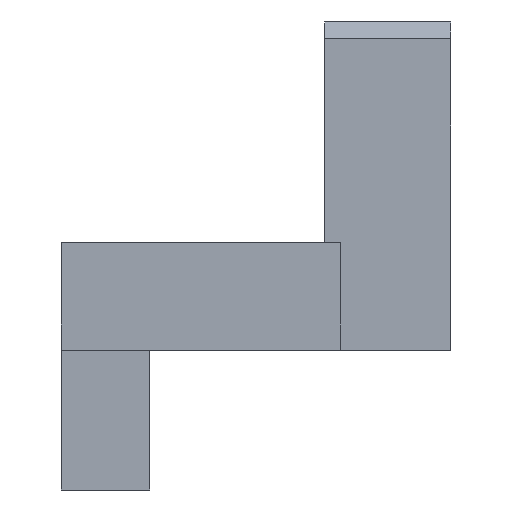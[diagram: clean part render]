
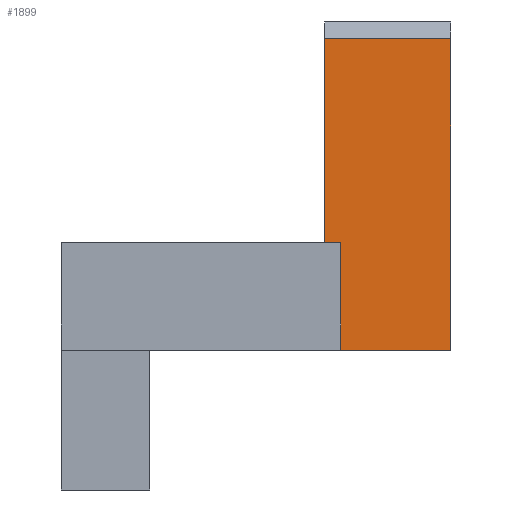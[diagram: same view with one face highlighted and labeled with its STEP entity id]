
A CAD part, front view. The second image highlights one B-rep face of the part: STEP entity #1899.
In plain terms, the highlighted planar face has unit normal (0, -1, 0).
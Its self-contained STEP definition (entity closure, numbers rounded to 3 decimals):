
#44 = PLANE('',#45);
#45 = AXIS2_PLACEMENT_3D('',#46,#47,#48);
#46 = CARTESIAN_POINT('',(31.6,-13.1,-12.7));
#47 = DIRECTION('',(0.,0.,1.));
#48 = DIRECTION('',(1.,0.,-0.));
#100 = PLANE('',#101);
#101 = AXIS2_PLACEMENT_3D('',#102,#103,#104);
#102 = CARTESIAN_POINT('',(31.6,-13.1,-14.7));
#103 = DIRECTION('',(0.,0.,1.));
#104 = DIRECTION('',(1.,0.,-0.));
#273 = VERTEX_POINT('',#274);
#274 = CARTESIAN_POINT('',(36.8,-14.5,-12.7));
#288 = PLANE('',#289);
#289 = AXIS2_PLACEMENT_3D('',#290,#291,#292);
#290 = CARTESIAN_POINT('',(36.8,-16.5,-14.7));
#291 = DIRECTION('',(1.,0.,-0.));
#292 = DIRECTION('',(0.,0.,1.));
#300 = EDGE_CURVE('',#273,#301,#303,.T.);
#301 = VERTEX_POINT('',#302);
#302 = CARTESIAN_POINT('',(36.5,-14.5,-12.7));
#303 = SURFACE_CURVE('',#304,(#308,#315),.PCURVE_S1.);
#304 = LINE('',#305,#306);
#305 = CARTESIAN_POINT('',(34.05,-14.5,-12.7));
#306 = VECTOR('',#307,1.);
#307 = DIRECTION('',(-1.,-0.,0.));
#308 = PCURVE('',#44,#309);
#309 = DEFINITIONAL_REPRESENTATION('',(#310),#314);
#310 = LINE('',#311,#312);
#311 = CARTESIAN_POINT('',(2.45,-1.4));
#312 = VECTOR('',#313,1.);
#313 = DIRECTION('',(-1.,0.));
#314 = ( GEOMETRIC_REPRESENTATION_CONTEXT(2) 
PARAMETRIC_REPRESENTATION_CONTEXT() REPRESENTATION_CONTEXT('2D SPACE',''
  ) );
#315 = PCURVE('',#316,#321);
#316 = PLANE('',#317);
#317 = AXIS2_PLACEMENT_3D('',#318,#319,#320);
#318 = CARTESIAN_POINT('',(36.5,-14.5,-14.7));
#319 = DIRECTION('',(-0.,1.,0.));
#320 = DIRECTION('',(0.,0.,1.));
#321 = DEFINITIONAL_REPRESENTATION('',(#322),#326);
#322 = LINE('',#323,#324);
#323 = CARTESIAN_POINT('',(2.,-2.45));
#324 = VECTOR('',#325,1.);
#325 = DIRECTION('',(0.,-1.));
#326 = ( GEOMETRIC_REPRESENTATION_CONTEXT(2) 
PARAMETRIC_REPRESENTATION_CONTEXT() REPRESENTATION_CONTEXT('2D SPACE',''
  ) );
#344 = PLANE('',#345);
#345 = AXIS2_PLACEMENT_3D('',#346,#347,#348);
#346 = CARTESIAN_POINT('',(36.5,-14.5,-14.7));
#347 = DIRECTION('',(1.,0.,-0.));
#348 = DIRECTION('',(0.,0.,1.));
#764 = VERTEX_POINT('',#765);
#765 = CARTESIAN_POINT('',(36.8,-14.5,-14.7));
#786 = EDGE_CURVE('',#764,#787,#789,.T.);
#787 = VERTEX_POINT('',#788);
#788 = CARTESIAN_POINT('',(38.85,-14.5,-14.7));
#789 = SURFACE_CURVE('',#790,(#794,#801),.PCURVE_S1.);
#790 = LINE('',#791,#792);
#791 = CARTESIAN_POINT('',(36.5,-14.5,-14.7));
#792 = VECTOR('',#793,1.);
#793 = DIRECTION('',(1.,0.,-0.));
#794 = PCURVE('',#100,#795);
#795 = DEFINITIONAL_REPRESENTATION('',(#796),#800);
#796 = LINE('',#797,#798);
#797 = CARTESIAN_POINT('',(4.9,-1.4));
#798 = VECTOR('',#799,1.);
#799 = DIRECTION('',(1.,0.));
#800 = ( GEOMETRIC_REPRESENTATION_CONTEXT(2) 
PARAMETRIC_REPRESENTATION_CONTEXT() REPRESENTATION_CONTEXT('2D SPACE',''
  ) );
#801 = PCURVE('',#316,#802);
#802 = DEFINITIONAL_REPRESENTATION('',(#803),#807);
#803 = LINE('',#804,#805);
#804 = CARTESIAN_POINT('',(0.,0.));
#805 = VECTOR('',#806,1.);
#806 = DIRECTION('',(0.,1.));
#807 = ( GEOMETRIC_REPRESENTATION_CONTEXT(2) 
PARAMETRIC_REPRESENTATION_CONTEXT() REPRESENTATION_CONTEXT('2D SPACE',''
  ) );
#825 = PLANE('',#826);
#826 = AXIS2_PLACEMENT_3D('',#827,#828,#829);
#827 = CARTESIAN_POINT('',(38.85,-14.5,-14.7));
#828 = DIRECTION('',(1.,0.,-0.));
#829 = DIRECTION('',(0.,0.,1.));
#1825 = EDGE_CURVE('',#301,#1826,#1828,.T.);
#1826 = VERTEX_POINT('',#1827);
#1827 = CARTESIAN_POINT('',(36.5,-14.5,-8.915));
#1828 = SURFACE_CURVE('',#1829,(#1833,#1840),.PCURVE_S1.);
#1829 = LINE('',#1830,#1831);
#1830 = CARTESIAN_POINT('',(36.5,-14.5,-14.7));
#1831 = VECTOR('',#1832,1.);
#1832 = DIRECTION('',(0.,0.,1.));
#1833 = PCURVE('',#344,#1834);
#1834 = DEFINITIONAL_REPRESENTATION('',(#1835),#1839);
#1835 = LINE('',#1836,#1837);
#1836 = CARTESIAN_POINT('',(0.,0.));
#1837 = VECTOR('',#1838,1.);
#1838 = DIRECTION('',(1.,0.));
#1839 = ( GEOMETRIC_REPRESENTATION_CONTEXT(2) 
PARAMETRIC_REPRESENTATION_CONTEXT() REPRESENTATION_CONTEXT('2D SPACE',''
  ) );
#1840 = PCURVE('',#316,#1841);
#1841 = DEFINITIONAL_REPRESENTATION('',(#1842),#1846);
#1842 = LINE('',#1843,#1844);
#1843 = CARTESIAN_POINT('',(0.,0.));
#1844 = VECTOR('',#1845,1.);
#1845 = DIRECTION('',(1.,0.));
#1846 = ( GEOMETRIC_REPRESENTATION_CONTEXT(2) 
PARAMETRIC_REPRESENTATION_CONTEXT() REPRESENTATION_CONTEXT('2D SPACE',''
  ) );
#1888 = CYLINDRICAL_SURFACE('',#1889,5.4);
#1889 = AXIS2_PLACEMENT_3D('',#1890,#1891,#1892);
#1890 = CARTESIAN_POINT('',(30.,-10.,-11.9));
#1891 = DIRECTION('',(1.,0.,-0.));
#1892 = DIRECTION('',(0.,-1.,0.));
#1899 = ADVANCED_FACE('',(#1900),#316,.F.);
#1900 = FACE_BOUND('',#1901,.F.);
#1901 = EDGE_LOOP('',(#1902,#1925,#1926,#1947,#1948,#1949));
#1902 = ORIENTED_EDGE('',*,*,#1903,.F.);
#1903 = EDGE_CURVE('',#787,#1904,#1906,.T.);
#1904 = VERTEX_POINT('',#1905);
#1905 = CARTESIAN_POINT('',(38.85,-14.5,-8.915));
#1906 = SURFACE_CURVE('',#1907,(#1911,#1918),.PCURVE_S1.);
#1907 = LINE('',#1908,#1909);
#1908 = CARTESIAN_POINT('',(38.85,-14.5,-14.7));
#1909 = VECTOR('',#1910,1.);
#1910 = DIRECTION('',(0.,0.,1.));
#1911 = PCURVE('',#316,#1912);
#1912 = DEFINITIONAL_REPRESENTATION('',(#1913),#1917);
#1913 = LINE('',#1914,#1915);
#1914 = CARTESIAN_POINT('',(0.,2.35));
#1915 = VECTOR('',#1916,1.);
#1916 = DIRECTION('',(1.,0.));
#1917 = ( GEOMETRIC_REPRESENTATION_CONTEXT(2) 
PARAMETRIC_REPRESENTATION_CONTEXT() REPRESENTATION_CONTEXT('2D SPACE',''
  ) );
#1918 = PCURVE('',#825,#1919);
#1919 = DEFINITIONAL_REPRESENTATION('',(#1920),#1924);
#1920 = LINE('',#1921,#1922);
#1921 = CARTESIAN_POINT('',(0.,0.));
#1922 = VECTOR('',#1923,1.);
#1923 = DIRECTION('',(1.,0.));
#1924 = ( GEOMETRIC_REPRESENTATION_CONTEXT(2) 
PARAMETRIC_REPRESENTATION_CONTEXT() REPRESENTATION_CONTEXT('2D SPACE',''
  ) );
#1925 = ORIENTED_EDGE('',*,*,#786,.F.);
#1926 = ORIENTED_EDGE('',*,*,#1927,.T.);
#1927 = EDGE_CURVE('',#764,#273,#1928,.T.);
#1928 = SURFACE_CURVE('',#1929,(#1933,#1940),.PCURVE_S1.);
#1929 = LINE('',#1930,#1931);
#1930 = CARTESIAN_POINT('',(36.8,-14.5,-14.7));
#1931 = VECTOR('',#1932,1.);
#1932 = DIRECTION('',(0.,0.,1.));
#1933 = PCURVE('',#316,#1934);
#1934 = DEFINITIONAL_REPRESENTATION('',(#1935),#1939);
#1935 = LINE('',#1936,#1937);
#1936 = CARTESIAN_POINT('',(0.,0.3));
#1937 = VECTOR('',#1938,1.);
#1938 = DIRECTION('',(1.,0.));
#1939 = ( GEOMETRIC_REPRESENTATION_CONTEXT(2) 
PARAMETRIC_REPRESENTATION_CONTEXT() REPRESENTATION_CONTEXT('2D SPACE',''
  ) );
#1940 = PCURVE('',#288,#1941);
#1941 = DEFINITIONAL_REPRESENTATION('',(#1942),#1946);
#1942 = LINE('',#1943,#1944);
#1943 = CARTESIAN_POINT('',(0.,-2.));
#1944 = VECTOR('',#1945,1.);
#1945 = DIRECTION('',(1.,0.));
#1946 = ( GEOMETRIC_REPRESENTATION_CONTEXT(2) 
PARAMETRIC_REPRESENTATION_CONTEXT() REPRESENTATION_CONTEXT('2D SPACE',''
  ) );
#1947 = ORIENTED_EDGE('',*,*,#300,.T.);
#1948 = ORIENTED_EDGE('',*,*,#1825,.T.);
#1949 = ORIENTED_EDGE('',*,*,#1950,.T.);
#1950 = EDGE_CURVE('',#1826,#1904,#1951,.T.);
#1951 = SURFACE_CURVE('',#1952,(#1956,#1963),.PCURVE_S1.);
#1952 = LINE('',#1953,#1954);
#1953 = CARTESIAN_POINT('',(30.,-14.5,-8.915));
#1954 = VECTOR('',#1955,1.);
#1955 = DIRECTION('',(1.,0.,-0.));
#1956 = PCURVE('',#316,#1957);
#1957 = DEFINITIONAL_REPRESENTATION('',(#1958),#1962);
#1958 = LINE('',#1959,#1960);
#1959 = CARTESIAN_POINT('',(5.785,-6.5));
#1960 = VECTOR('',#1961,1.);
#1961 = DIRECTION('',(0.,1.));
#1962 = ( GEOMETRIC_REPRESENTATION_CONTEXT(2) 
PARAMETRIC_REPRESENTATION_CONTEXT() REPRESENTATION_CONTEXT('2D SPACE',''
  ) );
#1963 = PCURVE('',#1888,#1964);
#1964 = DEFINITIONAL_REPRESENTATION('',(#1965),#1968);
#1965 = B_SPLINE_CURVE_WITH_KNOTS('',1,(#1966,#1967),.UNSPECIFIED.,.F.,
  .F.,(2,2),(6.265,9.085),.PIECEWISE_BEZIER_KNOTS.);
#1966 = CARTESIAN_POINT('',(5.697,6.265));
#1967 = CARTESIAN_POINT('',(5.697,9.085));
#1968 = ( GEOMETRIC_REPRESENTATION_CONTEXT(2) 
PARAMETRIC_REPRESENTATION_CONTEXT() REPRESENTATION_CONTEXT('2D SPACE',''
  ) );
